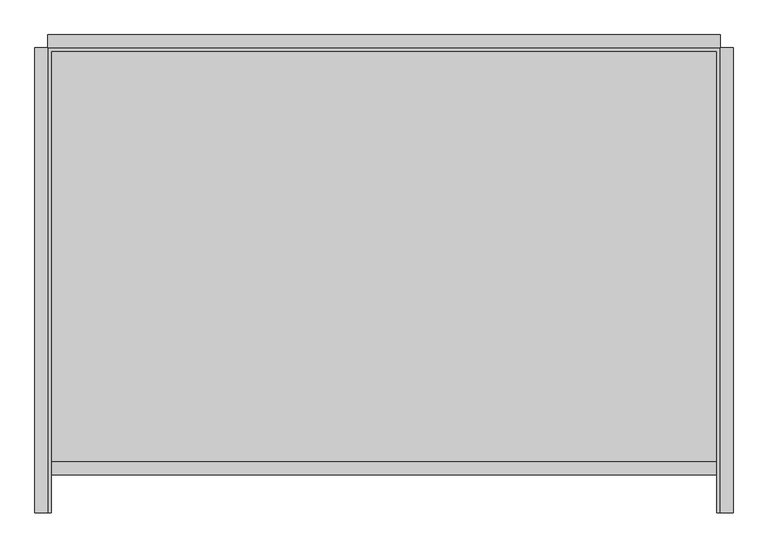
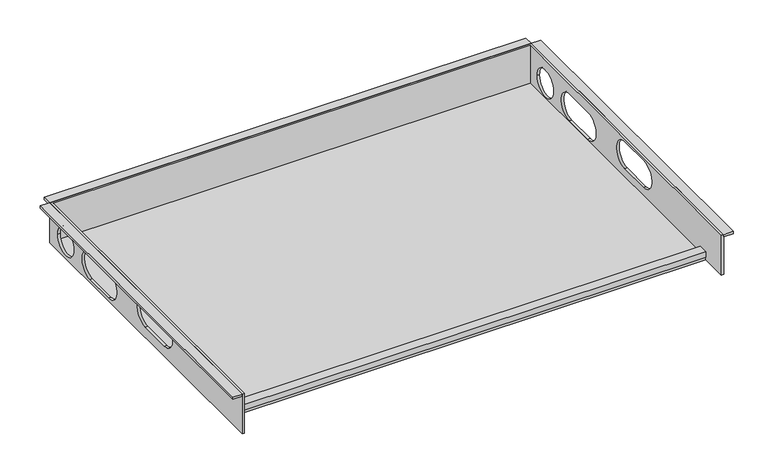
"""IFC4 building model written with IfcOpenShell, lengths in millimetres: valve geometry, Superpipe Manifold Cabinet Concealed Version : Superpipe Manifold Cabinet Concealed Version-12 Way."""

from ifc_helpers import new_model, si_unit, frame, origin, place, context, project, spatial, polyline, circle_curve, outline, extrude, source, transform, mapped, element, save
from ifc_brep_helpers import plane_surface, revolved_surface, advanced_brep


def valve_68c88c4a(model_context):
    return source(origin(), model_context, "Body", "SolidModel", [
        extrude(outline(polyline([(-298.5, -72.0341988), (-278.5, -72.0341988), (-278.5, -77.0341988), (-293.5, -77.0341988), (-293.5, -85.0), (-298.5, -85.0), (-298.5, -72.0341988)])), frame((-510.0, 0.0, 0.0), z_axis=(1.0, 0.0, 0.0), x_axis=(0.0, 1.0, 0.0)), (0.0, 0.0, 1.0), 1020.0),
        extrude(outline(polyline([(535.0, -356.5), (515.0, -356.5), (515.0, 356.5), (535.0, 356.5), (535.0, -356.5)])), frame((0.0, 0.0, -5.0), z_axis=(0.0, 0.0, 1.0), x_axis=(1.0, 0.0, 0.0)), (0.0, 0.0, 1.0), 5.0),
        extrude(outline(polyline([(-515.0, -356.5), (-535.0, -356.5), (-535.0, 356.5), (-515.0, 356.5), (-515.0, -356.5)])), frame((0.0, 0.0, -5.0), z_axis=(0.0, 0.0, 1.0), x_axis=(1.0, 0.0, 0.0)), (0.0, 0.0, 1.0), 5.0),
        extrude(outline(polyline([(515.0, 376.5), (515.0, 356.5), (-515.0, 356.5), (-515.0, 376.5), (515.0, 376.5)])), frame((0.0, 0.0, -5.0), z_axis=(0.0, 0.0, 1.0), x_axis=(1.0, 0.0, 0.0)), (0.0, 0.0, 1.0), 5.0),
        advanced_brep(
        [(515.0, 356.5, 0.0), (-515.0, 356.5, 0.0), (-515.0, -356.5, 0.0), (-510.0, -356.5, 0.0), (-510.0, 351.5, 0.0), (510.0, 351.5, 0.0), (510.0, -356.5, 0.0), (515.0, -356.5, 0.0), (515.0, 356.5, -90.0), (515.0, -356.5, -90.0), (510.0, -356.5, -90.0), (510.0, -298.5, -90.0), (-510.0, -298.5, -90.0), (-510.0, -356.5, -90.0), (-515.0, -356.5, -90.0), (-515.0, 356.5, -90.0), (-515.0, 266.5, -52.5), (-515.0, 326.5, -52.5), (-515.0, 138.0, -82.5), (-515.0, 206.5, -82.5), (-515.0, 206.5, -22.5), (-515.0, 138.0, -22.5), (-515.0, -68.5, -66.0), (-515.0, 1.5, -66.0), (-515.0, 1.5, -6.0), (-515.0, -68.5, -6.0), (515.0, 326.5, -52.5), (515.0, 266.5, -52.5), (515.0, 206.5, -82.5), (515.0, 138.0, -82.5), (515.0, 138.0, -22.5), (515.0, 206.5, -22.5), (515.0, 1.5, -66.0), (515.0, -68.5, -66.0), (515.0, -68.5, -6.0), (515.0, 1.5, -6.0), (510.0, 351.5, -85.0), (-510.0, 351.5, -85.0), (-510.0, -298.5, -85.0), (510.0, -298.5, -85.0), (-510.0, 326.5, -52.5), (-510.0, 266.5, -52.5), (-510.0, 206.5, -82.5), (-510.0, 138.0, -82.5), (-510.0, 138.0, -22.5), (-510.0, 206.5, -22.5), (-510.0, 1.5, -66.0), (-510.0, -68.5, -66.0), (-510.0, -68.5, -6.0), (-510.0, 1.5, -6.0), (510.0, 266.5, -52.5), (510.0, 326.5, -52.5), (510.0, 138.0, -82.5), (510.0, 206.5, -82.5), (510.0, 206.5, -22.5), (510.0, 138.0, -22.5), (510.0, -68.5, -66.0), (510.0, 1.5, -66.0), (510.0, 1.5, -6.0), (510.0, -68.5, -6.0)],
        [
            (0, 1),
            (1, 2),
            (2, 3),
            (3, 4),
            (4, 5),
            (5, 6),
            (6, 7),
            (7, 0),
            (8, 9),
            (9, 10),
            (10, 11),
            (11, 12),
            (12, 13),
            (13, 14),
            (14, 15),
            (15, 8),
            (0, 8),
            (15, 1),
            (14, 2),
            (16, 17, circle_curve(frame((-515.0, 296.5, -52.5), z_axis=(1.0, 0.0, 0.0), x_axis=(0.0, -1.0, 0.0)), 30.0)),
            (17, 16, circle_curve(frame((-515.0, 296.5, -52.5), z_axis=(1.0, 0.0, 0.0), x_axis=(0.0, -1.0, 0.0)), 30.0)),
            (18, 19),
            (19, 20, circle_curve(frame((-515.0, 206.5, -52.5), z_axis=(1.0, 0.0, 0.0), x_axis=(0.0, -1.0, 0.0)), 30.0)),
            (20, 21),
            (21, 18, circle_curve(frame((-515.0, 138.0, -52.5), z_axis=(1.0, 0.0, 0.0), x_axis=(0.0, -1.0, 0.0)), 30.0)),
            (22, 23),
            (23, 24, circle_curve(frame((-515.0, 1.5, -36.0), z_axis=(1.0, 0.0, 0.0), x_axis=(0.0, -1.0, 0.0)), 30.0)),
            (24, 25),
            (25, 22, circle_curve(frame((-515.0, -68.5, -36.0), z_axis=(1.0, 0.0, 0.0), x_axis=(0.0, -1.0, 0.0)), 30.0)),
            (13, 3),
            (9, 7),
            (6, 10),
            (26, 27, circle_curve(frame((515.0, 296.5, -52.5), z_axis=(-1.0, 0.0, 0.0), x_axis=(0.0, -1.0, 0.0)), 30.0)),
            (27, 26, circle_curve(frame((515.0, 296.5, -52.5), z_axis=(-1.0, 0.0, 0.0), x_axis=(0.0, -1.0, 0.0)), 30.0)),
            (28, 29),
            (29, 30, circle_curve(frame((515.0, 138.0, -52.5), z_axis=(-1.0, 0.0, 0.0), x_axis=(0.0, -1.0, 0.0)), 30.0)),
            (30, 31),
            (31, 28, circle_curve(frame((515.0, 206.5, -52.5), z_axis=(-1.0, 0.0, 0.0), x_axis=(0.0, -1.0, 0.0)), 30.0)),
            (32, 33),
            (33, 34, circle_curve(frame((515.0, -68.5, -36.0), z_axis=(-1.0, 0.0, 0.0), x_axis=(0.0, -1.0, 0.0)), 30.0)),
            (34, 35),
            (35, 32, circle_curve(frame((515.0, 1.5, -36.0), z_axis=(-1.0, 0.0, 0.0), x_axis=(0.0, -1.0, 0.0)), 30.0)),
            (36, 37),
            (37, 38),
            (38, 39),
            (39, 36),
            (36, 5),
            (4, 37),
            (12, 38),
            (40, 41, circle_curve(frame((-510.0, 296.5, -52.5), z_axis=(-1.0, 0.0, 0.0), x_axis=(0.0, -1.0, 0.0)), 30.0)),
            (41, 40, circle_curve(frame((-510.0, 296.5, -52.5), z_axis=(-1.0, 0.0, 0.0), x_axis=(0.0, -1.0, 0.0)), 30.0)),
            (42, 43),
            (43, 44, circle_curve(frame((-510.0, 138.0, -52.5), z_axis=(-1.0, 0.0, 0.0), x_axis=(0.0, -1.0, 0.0)), 30.0)),
            (44, 45),
            (45, 42, circle_curve(frame((-510.0, 206.5, -52.5), z_axis=(-1.0, 0.0, 0.0), x_axis=(0.0, -1.0, 0.0)), 30.0)),
            (46, 47),
            (47, 48, circle_curve(frame((-510.0, -68.5, -36.0), z_axis=(-1.0, 0.0, 0.0), x_axis=(0.0, -1.0, 0.0)), 30.0)),
            (48, 49),
            (49, 46, circle_curve(frame((-510.0, 1.5, -36.0), z_axis=(-1.0, 0.0, 0.0), x_axis=(0.0, -1.0, 0.0)), 30.0)),
            (39, 11),
            (50, 51, circle_curve(frame((510.0, 296.5, -52.5), z_axis=(1.0, 0.0, 0.0), x_axis=(0.0, -1.0, 0.0)), 30.0)),
            (51, 50, circle_curve(frame((510.0, 296.5, -52.5), z_axis=(1.0, 0.0, 0.0), x_axis=(0.0, -1.0, 0.0)), 30.0)),
            (52, 53),
            (53, 54, circle_curve(frame((510.0, 206.5, -52.5), z_axis=(1.0, 0.0, 0.0), x_axis=(0.0, -1.0, 0.0)), 30.0)),
            (54, 55),
            (55, 52, circle_curve(frame((510.0, 138.0, -52.5), z_axis=(1.0, 0.0, 0.0), x_axis=(0.0, -1.0, 0.0)), 30.0)),
            (56, 57),
            (57, 58, circle_curve(frame((510.0, 1.5, -36.0), z_axis=(1.0, 0.0, 0.0), x_axis=(0.0, -1.0, 0.0)), 30.0)),
            (58, 59),
            (59, 56, circle_curve(frame((510.0, -68.5, -36.0), z_axis=(1.0, 0.0, 0.0), x_axis=(0.0, -1.0, 0.0)), 30.0)),
            (40, 17),
            (16, 41),
            (26, 51),
            (50, 27),
            (42, 19),
            (18, 43),
            (28, 53),
            (52, 29),
            (21, 44),
            (55, 30),
            (20, 45),
            (54, 31),
            (46, 23),
            (22, 47),
            (32, 57),
            (56, 33),
            (25, 48),
            (59, 34),
            (24, 49),
            (58, 35),
        ],
        [
            plane_surface(frame((-515.0, 356.5, 0.0), z_axis=(0.0, 0.0, 1.0), x_axis=(-1.0, 0.0, 0.0))),
            plane_surface(frame((-515.0, 356.5, -90.0), z_axis=(0.0, 0.0, -1.0), x_axis=(1.0, 0.0, 0.0))),
            plane_surface(frame((515.0, 356.5, 0.0), z_axis=(0.0, 1.0, 0.0), x_axis=(0.0, 0.0, -1.0))),
            plane_surface(frame((-515.0, 356.5, 0.0), z_axis=(-1.0, 0.0, 0.0), x_axis=(0.0, 0.0, -1.0))),
            plane_surface(frame((-515.0, -356.5, 0.0), z_axis=(0.0, -1.0, 0.0), x_axis=(0.0, 0.0, -1.0))),
            plane_surface(frame((515.0, -356.5, 0.0), z_axis=(1.0, 0.0, 0.0), x_axis=(0.0, 0.0, -1.0))),
            plane_surface(frame((-510.0, 351.5, -85.0), z_axis=(0.0, 0.0, 1.0), x_axis=(1.0, 0.0, 0.0))),
            plane_surface(frame((510.0, 351.5, 0.0), z_axis=(0.0, -1.0, 0.0), x_axis=(0.0, 0.0, -1.0))),
            plane_surface(frame((-510.0, 351.5, 0.0), z_axis=(1.0, 0.0, 0.0), x_axis=(0.0, 0.0, -1.0))),
            plane_surface(frame((510.0, -356.5, 0.0), z_axis=(-1.0, 0.0, 0.0), x_axis=(0.0, 0.0, -1.0))),
            plane_surface(frame((510.0, -298.5, -85.0), z_axis=(0.0, -1.0, 0.0), x_axis=(0.0, 0.0, -1.0))),
            revolved_surface(polyline([(-515.0, 266.5, -52.5), (-510.0, 266.5, -52.5)]), (515.0, 296.5, -52.5), (-1.0, 0.0, 0.0)),
            revolved_surface(polyline([(510.0, 266.5, -52.5), (515.0, 266.5, -52.5)]), (515.0, 296.5, -52.5), (-1.0, 0.0, 0.0)),
            plane_surface(frame((-515.0, 206.5, -82.5), z_axis=(0.0, 0.0, 1.0), x_axis=(1.0, 0.0, 0.0))),
            revolved_surface(polyline([(-515.0, 108.0, -52.5), (-510.0, 108.0, -52.5)]), (-515.0, 138.0, -52.5), (-1.0, 0.0, 0.0)),
            revolved_surface(polyline([(510.0, 108.0, -52.5), (515.0, 108.0, -52.5)]), (-515.0, 138.0, -52.5), (-1.0, 0.0, 0.0)),
            plane_surface(frame((-515.0, 138.0, -22.5), z_axis=(0.0, 0.0, -1.0), x_axis=(1.0, 0.0, 0.0))),
            revolved_surface(polyline([(-515.0, 176.5, -52.5), (-510.0, 176.5, -52.5)]), (-515.0, 206.5, -52.5), (-1.0, 0.0, 0.0)),
            revolved_surface(polyline([(510.0, 176.5, -52.5), (515.0, 176.5, -52.5)]), (-515.0, 206.5, -52.5), (-1.0, 0.0, 0.0)),
            plane_surface(frame((-515.0, 1.5, -66.0), z_axis=(0.0, 0.0, 1.0), x_axis=(1.0, 0.0, 0.0))),
            revolved_surface(polyline([(-515.0, -98.5, -36.0), (-510.0, -98.5, -36.0)]), (-515.0, -68.5, -36.0), (-1.0, 0.0, 0.0)),
            revolved_surface(polyline([(510.0, -98.5, -36.0), (515.0, -98.5, -36.0)]), (-515.0, -68.5, -36.0), (-1.0, 0.0, 0.0)),
            plane_surface(frame((-515.0, -68.5, -6.0), z_axis=(0.0, 0.0, -1.0), x_axis=(1.0, 0.0, 0.0))),
            revolved_surface(polyline([(-515.0, -28.5, -36.0), (-510.0, -28.5, -36.0)]), (-515.0, 1.5, -36.0), (-1.0, 0.0, 0.0)),
            revolved_surface(polyline([(510.0, -28.5, -36.0), (515.0, -28.5, -36.0)]), (-515.0, 1.5, -36.0), (-1.0, 0.0, 0.0)),
        ],
        [
            (0, [[1, 2, 3, 4, 5, 6, 7, 8]]),
            (1, [[9, 10, 11, 12, 13, 14, 15, 16]]),
            (2, [[-1, 17, -16, 18]]),
            (3, [[-2, -18, -15, 19], [20, 21], [22, 23, 24, 25], [26, 27, 28, 29]]),
            (4, [[-19, -14, 30, -3]]),
            (4, [[31, -7, 32, -10]]),
            (5, [[-8, -31, -9, -17], [33, 34], [35, 36, 37, 38], [39, 40, 41, 42]]),
            (6, [[43, 44, 45, 46]]),
            (7, [[-43, 47, -5, 48]]),
            (8, [[-48, -4, -30, -13, 49, -44], [50, 51], [52, 53, 54, 55], [56, 57, 58, 59]]),
            (9, [[-47, -46, 60, -11, -32, -6], [61, 62], [63, 64, 65, 66], [67, 68, 69, 70]]),
            (10, [[-49, -12, -60, -45]]),
            (11, [[71, -20, 72, -50]]),
            (12, [[73, -61, 74, -33]]),
            (11, [[-71, -51, -72, -21]]),
            (12, [[-73, -34, -74, -62]]),
            (13, [[75, -22, 76, -52]]),
            (13, [[77, -63, 78, -35]]),
            (14, [[-76, -25, 79, -53]]),
            (15, [[-78, -66, 80, -36]]),
            (16, [[-79, -24, 81, -54]]),
            (16, [[-80, -65, 82, -37]]),
            (17, [[-75, -55, -81, -23]]),
            (18, [[-77, -38, -82, -64]]),
            (19, [[83, -26, 84, -56]]),
            (19, [[85, -67, 86, -39]]),
            (20, [[-84, -29, 87, -57]]),
            (21, [[-86, -70, 88, -40]]),
            (22, [[-87, -28, 89, -58]]),
            (22, [[-88, -69, 90, -41]]),
            (23, [[-83, -59, -89, -27]]),
            (24, [[-85, -42, -90, -68]]),
        ],
    ),
    ])


if __name__ == "__main__":
    model = new_model("IFC4")
    model_context = context("Model", 3, world=origin())
    ifc_project = project(units=[si_unit("LENGTHUNIT", "METRE", prefix="MILLI")], contexts=[model_context])
    site = spatial("IfcSite", under=ifc_project)
    building = spatial("IfcBuilding", under=site)
    placement = place(None, origin())
    valve_shape = valve_68c88c4a(model_context)
    element("IfcValve", 1, ObjectType="Superpipe Manifold Cabinet Concealed Version : Superpipe Manifold Cabinet Concealed Version-12 Way", at=placement, inside=building, context=model_context, shape_type="MappedRepresentation", body=[
        mapped(valve_shape, transform((0.0, 0.0, 0.0), x_axis=(1.0, 0.0, 0.0), y_axis=(0.0, 1.0, 0.0), z_axis=(0.0, 0.0, 1.0))),
    ])
    save(model, "model.ifc")
